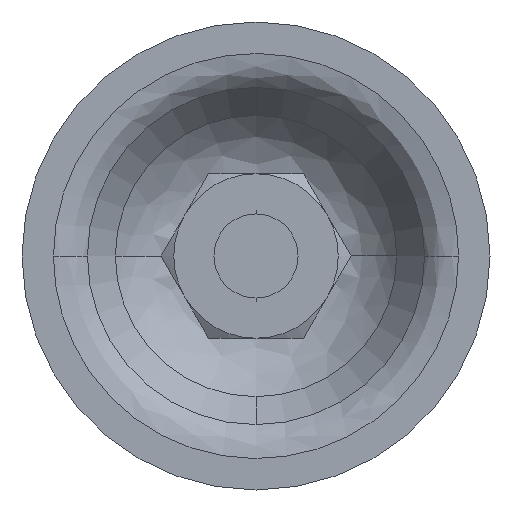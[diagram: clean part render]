
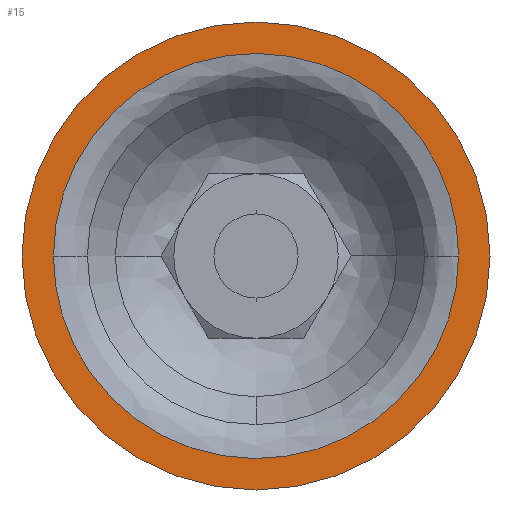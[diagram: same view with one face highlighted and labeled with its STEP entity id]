
A CAD part, front view. The second image highlights one B-rep face of the part: STEP entity #15.
In plain terms, the highlighted planar face has unit normal (0, -1, 0).
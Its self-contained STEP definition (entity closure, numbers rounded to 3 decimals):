
#8 = EDGE_LOOP ( 'NONE', ( #2691, #265 ) ) ;
#15 = ADVANCED_FACE ( 'NONE', ( #715, #716 ), #717, .F. ) ;
#134 = EDGE_CURVE ( 'NONE', #326, #350, #2258, .T. ) ;
#163 = ORIENTED_EDGE ( 'NONE', *, *, #134, .T. ) ;
#211 = EDGE_LOOP ( 'NONE', ( #163, #3129 ) ) ;
#232 = EDGE_CURVE ( 'NONE', #311, #336, #1398, .T. ) ;
#265 = ORIENTED_EDGE ( 'NONE', *, *, #232, .T. ) ;
#311 = VERTEX_POINT ( 'NONE', #2136 ) ;
#326 = VERTEX_POINT ( 'NONE', #529 ) ;
#336 = VERTEX_POINT ( 'NONE', #558 ) ;
#350 = VERTEX_POINT ( 'NONE', #625 ) ;
#357 = EDGE_CURVE ( 'NONE', #336, #311, #663, .T. ) ;
#369 = EDGE_CURVE ( 'NONE', #350, #326, #772, .T. ) ;
#529 = CARTESIAN_POINT ( 'NONE',  ( 0., 0., 18.5 ) ) ;
#558 = CARTESIAN_POINT ( 'NONE',  ( 16.015, 0., 0. ) ) ;
#625 = CARTESIAN_POINT ( 'NONE',  ( 0., 0., -18.5 ) ) ;
#663 = B_SPLINE_CURVE_WITH_KNOTS ( 'NONE', 3,
 ( #664, #665, #666, #667, #668, #669, #670, #671, #672, #673, #674, #675, #676, #677, #678, #679, #680, #681, #682, #683, #684, #685, #686, #687, #688, #689, #690, #691, #692, #695, #696, #697, #698, #699 ),
 .UNSPECIFIED., .F., .F.,
 ( 4, 2, 2, 2, 2, 2, 2, 2, 2, 2, 2, 2, 2, 2, 2, 2, 4 ),
 ( 0., 0.062, 0.125, 0.188, 0.25, 0.313, 0.375, 0.438, 0.5, 0.563, 0.625, 0.688, 0.75, 0.813, 0.875, 0.938, 1. ),
 .UNSPECIFIED. ) ;
#664 = CARTESIAN_POINT ( 'NONE',  ( 16.015, 0., 0. ) ) ;
#665 = CARTESIAN_POINT ( 'NONE',  ( 16.015, 0., -1.052 ) ) ;
#666 = CARTESIAN_POINT ( 'NONE',  ( 15.912, 0., -2.093 ) ) ;
#667 = CARTESIAN_POINT ( 'NONE',  ( 15.502, 0., -4.155 ) ) ;
#668 = CARTESIAN_POINT ( 'NONE',  ( 15.198, 0., -5.157 ) ) ;
#669 = CARTESIAN_POINT ( 'NONE',  ( 14.393, 0., -7.1 ) ) ;
#670 = CARTESIAN_POINT ( 'NONE',  ( 13.9, 0., -8.023 ) ) ;
#671 = CARTESIAN_POINT ( 'NONE',  ( 12.732, 0., -9.771 ) ) ;
#672 = CARTESIAN_POINT ( 'NONE',  ( 12.067, 0., -10.581 ) ) ;
#673 = CARTESIAN_POINT ( 'NONE',  ( 10.581, 0., -12.067 ) ) ;
#674 = CARTESIAN_POINT ( 'NONE',  ( 9.771, 0., -12.732 ) ) ;
#675 = CARTESIAN_POINT ( 'NONE',  ( 8.023, 0., -13.9 ) ) ;
#676 = CARTESIAN_POINT ( 'NONE',  ( 7.1, 0., -14.393 ) ) ;
#677 = CARTESIAN_POINT ( 'NONE',  ( 5.157, 0., -15.198 ) ) ;
#678 = CARTESIAN_POINT ( 'NONE',  ( 4.155, 0., -15.502 ) ) ;
#679 = CARTESIAN_POINT ( 'NONE',  ( 2.093, 0., -15.912 ) ) ;
#680 = CARTESIAN_POINT ( 'NONE',  ( 1.051, 0., -16.015 ) ) ;
#681 = CARTESIAN_POINT ( 'NONE',  ( -1.051, 0., -16.015 ) ) ;
#682 = CARTESIAN_POINT ( 'NONE',  ( -2.093, 0., -15.912 ) ) ;
#683 = CARTESIAN_POINT ( 'NONE',  ( -4.155, 0., -15.502 ) ) ;
#684 = CARTESIAN_POINT ( 'NONE',  ( -5.157, 0., -15.198 ) ) ;
#685 = CARTESIAN_POINT ( 'NONE',  ( -7.1, 0., -14.393 ) ) ;
#686 = CARTESIAN_POINT ( 'NONE',  ( -8.023, 0., -13.9 ) ) ;
#687 = CARTESIAN_POINT ( 'NONE',  ( -9.771, 0., -12.732 ) ) ;
#688 = CARTESIAN_POINT ( 'NONE',  ( -10.581, 0., -12.067 ) ) ;
#689 = CARTESIAN_POINT ( 'NONE',  ( -12.067, 0., -10.581 ) ) ;
#690 = CARTESIAN_POINT ( 'NONE',  ( -12.732, 0., -9.771 ) ) ;
#691 = CARTESIAN_POINT ( 'NONE',  ( -13.9, 0., -8.023 ) ) ;
#692 = CARTESIAN_POINT ( 'NONE',  ( -14.393, 0., -7.1 ) ) ;
#695 = CARTESIAN_POINT ( 'NONE',  ( -15.198, 0., -5.157 ) ) ;
#696 = CARTESIAN_POINT ( 'NONE',  ( -15.502, 0., -4.155 ) ) ;
#697 = CARTESIAN_POINT ( 'NONE',  ( -15.912, 0., -2.093 ) ) ;
#698 = CARTESIAN_POINT ( 'NONE',  ( -16.015, 0., -1.052 ) ) ;
#699 = CARTESIAN_POINT ( 'NONE',  ( -16.015, 0., 0. ) ) ;
#715 = FACE_BOUND ( 'NONE', #8, .T. ) ;
#716 = FACE_OUTER_BOUND ( 'NONE', #211, .T. ) ;
#717 = PLANE ( 'NONE',  #718 ) ;
#718 = AXIS2_PLACEMENT_3D ( 'NONE', #719, #720, #721 ) ;
#719 = CARTESIAN_POINT ( 'NONE',  ( -19.24, 0., 19.253 ) ) ;
#720 = DIRECTION ( 'NONE',  ( 0., 1., 0. ) ) ;
#721 = DIRECTION ( 'NONE',  ( 1., 0., 0. ) ) ;
#772 = CIRCLE ( 'NONE', #773, 18.5 ) ;
#773 = AXIS2_PLACEMENT_3D ( 'NONE', #774, #775, #778 ) ;
#774 = CARTESIAN_POINT ( 'NONE',  ( 0., 0., 0. ) ) ;
#775 = DIRECTION ( 'NONE',  ( 0., -1., 0. ) ) ;
#778 = DIRECTION ( 'NONE',  ( 0., 0., 1. ) ) ;
#1398 = B_SPLINE_CURVE_WITH_KNOTS ( 'NONE', 3,
 ( #1399, #1400, #1401, #1402, #1403, #1405, #1406, #1407, #1408, #1409, #1410, #1411, #1412, #1413, #1414, #1415, #1416, #1417, #1418, #1419, #1420, #1425, #1426, #1427, #1428, #1429, #1430, #1431, #1432, #1433, #1434, #1435, #1436, #1437 ),
 .UNSPECIFIED., .F., .F.,
 ( 4, 2, 2, 2, 2, 2, 2, 2, 2, 2, 2, 2, 2, 2, 2, 2, 4 ),
 ( 0., 0.063, 0.125, 0.188, 0.25, 0.313, 0.375, 0.438, 0.5, 0.563, 0.625, 0.688, 0.75, 0.813, 0.875, 0.938, 1. ),
 .UNSPECIFIED. ) ;
#1399 = CARTESIAN_POINT ( 'NONE',  ( -16.015, 0., 0. ) ) ;
#1400 = CARTESIAN_POINT ( 'NONE',  ( -16.015, 0., 1.052 ) ) ;
#1401 = CARTESIAN_POINT ( 'NONE',  ( -15.912, 0., 2.093 ) ) ;
#1402 = CARTESIAN_POINT ( 'NONE',  ( -15.502, 0., 4.155 ) ) ;
#1403 = CARTESIAN_POINT ( 'NONE',  ( -15.198, 0., 5.157 ) ) ;
#1405 = CARTESIAN_POINT ( 'NONE',  ( -14.393, 0., 7.1 ) ) ;
#1406 = CARTESIAN_POINT ( 'NONE',  ( -13.9, 0., 8.023 ) ) ;
#1407 = CARTESIAN_POINT ( 'NONE',  ( -12.732, 0., 9.771 ) ) ;
#1408 = CARTESIAN_POINT ( 'NONE',  ( -12.067, 0., 10.581 ) ) ;
#1409 = CARTESIAN_POINT ( 'NONE',  ( -10.581, 0., 12.067 ) ) ;
#1410 = CARTESIAN_POINT ( 'NONE',  ( -9.771, 0., 12.732 ) ) ;
#1411 = CARTESIAN_POINT ( 'NONE',  ( -8.023, 0., 13.9 ) ) ;
#1412 = CARTESIAN_POINT ( 'NONE',  ( -7.1, 0., 14.393 ) ) ;
#1413 = CARTESIAN_POINT ( 'NONE',  ( -5.157, 0., 15.198 ) ) ;
#1414 = CARTESIAN_POINT ( 'NONE',  ( -4.155, 0., 15.502 ) ) ;
#1415 = CARTESIAN_POINT ( 'NONE',  ( -2.093, 0., 15.912 ) ) ;
#1416 = CARTESIAN_POINT ( 'NONE',  ( -1.051, 0., 16.015 ) ) ;
#1417 = CARTESIAN_POINT ( 'NONE',  ( 1.051, 0., 16.015 ) ) ;
#1418 = CARTESIAN_POINT ( 'NONE',  ( 2.093, 0., 15.912 ) ) ;
#1419 = CARTESIAN_POINT ( 'NONE',  ( 4.155, 0., 15.502 ) ) ;
#1420 = CARTESIAN_POINT ( 'NONE',  ( 5.157, 0., 15.198 ) ) ;
#1425 = CARTESIAN_POINT ( 'NONE',  ( 7.1, 0., 14.393 ) ) ;
#1426 = CARTESIAN_POINT ( 'NONE',  ( 8.023, 0., 13.9 ) ) ;
#1427 = CARTESIAN_POINT ( 'NONE',  ( 9.771, 0., 12.732 ) ) ;
#1428 = CARTESIAN_POINT ( 'NONE',  ( 10.581, 0., 12.067 ) ) ;
#1429 = CARTESIAN_POINT ( 'NONE',  ( 12.067, 0., 10.581 ) ) ;
#1430 = CARTESIAN_POINT ( 'NONE',  ( 12.732, 0., 9.771 ) ) ;
#1431 = CARTESIAN_POINT ( 'NONE',  ( 13.9, 0., 8.023 ) ) ;
#1432 = CARTESIAN_POINT ( 'NONE',  ( 14.393, 0., 7.1 ) ) ;
#1433 = CARTESIAN_POINT ( 'NONE',  ( 15.198, 0., 5.157 ) ) ;
#1434 = CARTESIAN_POINT ( 'NONE',  ( 15.502, 0., 4.155 ) ) ;
#1435 = CARTESIAN_POINT ( 'NONE',  ( 15.912, 0., 2.093 ) ) ;
#1436 = CARTESIAN_POINT ( 'NONE',  ( 16.015, 0., 1.052 ) ) ;
#1437 = CARTESIAN_POINT ( 'NONE',  ( 16.015, 0., 0. ) ) ;
#2136 = CARTESIAN_POINT ( 'NONE',  ( -16.015, 0., 0. ) ) ;
#2258 = CIRCLE ( 'NONE', #2259, 18.5 ) ;
#2259 = AXIS2_PLACEMENT_3D ( 'NONE', #2260, #2261, #2262 ) ;
#2260 = CARTESIAN_POINT ( 'NONE',  ( 0., 0., 0. ) ) ;
#2261 = DIRECTION ( 'NONE',  ( 0., -1., 0. ) ) ;
#2262 = DIRECTION ( 'NONE',  ( 0., 0., 1. ) ) ;
#2691 = ORIENTED_EDGE ( 'NONE', *, *, #357, .T. ) ;
#3129 = ORIENTED_EDGE ( 'NONE', *, *, #369, .T. ) ;
